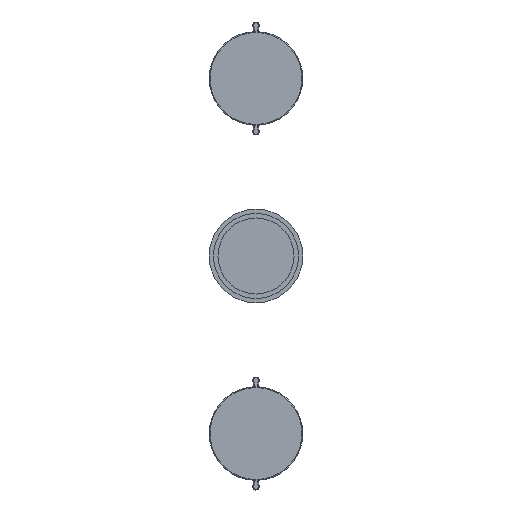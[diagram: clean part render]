
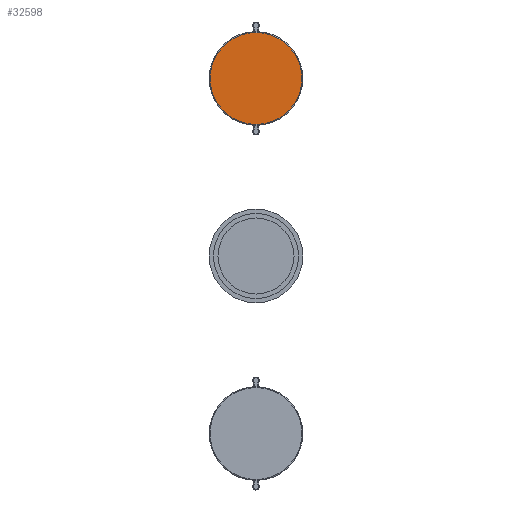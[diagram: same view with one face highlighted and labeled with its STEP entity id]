
A CAD part, left-side view. The second image highlights one B-rep face of the part: STEP entity #32598.
In plain terms, the highlighted planar face has unit normal (-1, 0, 0).
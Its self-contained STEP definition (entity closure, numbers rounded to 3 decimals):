
#30850=CARTESIAN_POINT('',(-15.,-2.5,110.));
#30851=DIRECTION('',(-1.,0.,0.));
#30852=DIRECTION('',(0.,1.,0.));
#30853=AXIS2_PLACEMENT_3D('',#30850,#30851,#30852);
#30855=CARTESIAN_POINT('',(-15.,-2.5,110.));
#30856=DIRECTION('',(-1.,0.,0.));
#30857=DIRECTION('',(0.,-1.,0.));
#30858=AXIS2_PLACEMENT_3D('',#30855,#30856,#30857);
#31032=CARTESIAN_POINT('',(-15.,26.,110.));
#31033=CARTESIAN_POINT('',(-15.,-31.,110.));
#31034=VERTEX_POINT('',#31032);
#31035=VERTEX_POINT('',#31033);
#32588=CARTESIAN_POINT('',(-15.,-2.5,110.));
#32589=DIRECTION('',(-1.,0.,0.));
#32590=DIRECTION('',(0.,1.,0.));
#32591=AXIS2_PLACEMENT_3D('',#32588,#32589,#32590);
#32592=PLANE('',#32591);
#32593=ORIENTED_EDGE('',*,*,#32571,.F.);
#32595=ORIENTED_EDGE('',*,*,#32594,.F.);
#32596=EDGE_LOOP('',(#32593,#32595));
#32597=FACE_OUTER_BOUND('',#32596,.F.);
#30854=CIRCLE('',#30853,28.5);
#30859=CIRCLE('',#30858,28.5);
#32571=EDGE_CURVE('',#31034,#31035,#30854,.T.);
#32594=EDGE_CURVE('',#31035,#31034,#30859,.T.);
#32598=ADVANCED_FACE('',(#32597),#32592,.T.);
